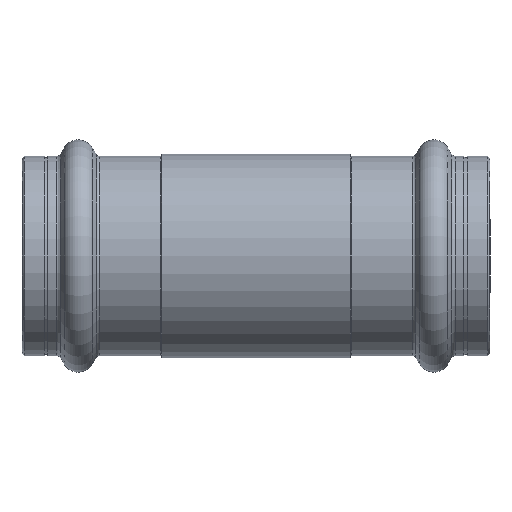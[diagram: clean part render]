
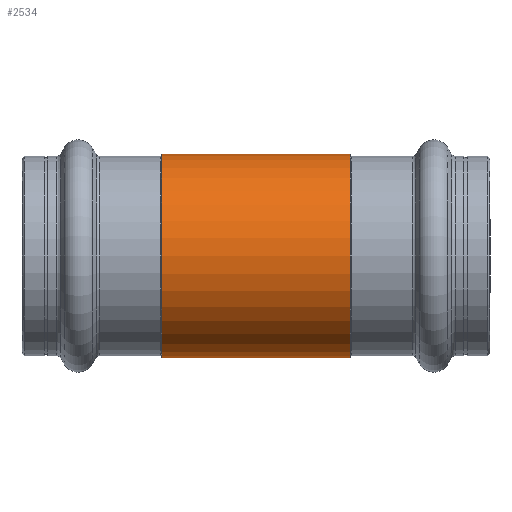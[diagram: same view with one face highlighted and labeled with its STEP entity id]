
A CAD part, front view. The second image highlights one B-rep face of the part: STEP entity #2534.
In plain terms, the highlighted cylindrical face has radius 23.5 mm (diameter 47 mm), a partial arc.
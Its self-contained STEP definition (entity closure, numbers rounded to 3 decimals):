
#301 = CARTESIAN_POINT ( 'NONE',  ( -51.265, 0., 0. ) ) ;
#381 = LINE ( 'NONE', #1226, #2763 ) ;
#392 = EDGE_LOOP ( 'NONE', ( #3155, #725, #4005, #3053 ) ) ;
#451 = DIRECTION ( 'NONE',  ( -1., 0., 0. ) ) ;
#725 = ORIENTED_EDGE ( 'NONE', *, *, #4508, .F. ) ;
#909 = DIRECTION ( 'NONE',  ( 0., 0., 1. ) ) ;
#1116 = FACE_OUTER_BOUND ( 'NONE', #392, .T. ) ;
#1226 = CARTESIAN_POINT ( 'NONE',  ( -51.265, 0., -23.5 ) ) ;
#1596 = CARTESIAN_POINT ( 'NONE',  ( -51.265, 0., 23.5 ) ) ;
#1636 = EDGE_CURVE ( 'NONE', #1990, #2400, #3427, .T. ) ;
#1713 = CARTESIAN_POINT ( 'NONE',  ( 21.711, 0., 23.5 ) ) ;
#1729 = EDGE_CURVE ( 'NONE', #1951, #2400, #1874, .T. ) ;
#1741 = VECTOR ( 'NONE', #2909, 1000. ) ;
#1863 = AXIS2_PLACEMENT_3D ( 'NONE', #4061, #4038, #3873 ) ;
#1874 = LINE ( 'NONE', #1596, #1741 ) ;
#1951 = VERTEX_POINT ( 'NONE', #1713 ) ;
#1990 = VERTEX_POINT ( 'NONE', #2948 ) ;
#2400 = VERTEX_POINT ( 'NONE', #4257 ) ;
#2534 = ADVANCED_FACE ( 'NONE', ( #1116 ), #3988, .T. ) ;
#2558 = CARTESIAN_POINT ( 'NONE',  ( 21.711, 0., -23.5 ) ) ;
#2594 = EDGE_CURVE ( 'NONE', #4278, #1990, #381, .T. ) ;
#2639 = CIRCLE ( 'NONE', #1863, 23.5 ) ;
#2763 = VECTOR ( 'NONE', #3387, 1000. ) ;
#2909 = DIRECTION ( 'NONE',  ( -1., 0., 0. ) ) ;
#2931 = AXIS2_PLACEMENT_3D ( 'NONE', #4456, #4634, #4477 ) ;
#2948 = CARTESIAN_POINT ( 'NONE',  ( -21.711, 0., -23.5 ) ) ;
#3053 = ORIENTED_EDGE ( 'NONE', *, *, #1636, .F. ) ;
#3155 = ORIENTED_EDGE ( 'NONE', *, *, #2594, .F. ) ;
#3387 = DIRECTION ( 'NONE',  ( -1., 0., 0. ) ) ;
#3427 = CIRCLE ( 'NONE', #2931, 23.5 ) ;
#3678 = AXIS2_PLACEMENT_3D ( 'NONE', #301, #451, #909 ) ;
#3873 = DIRECTION ( 'NONE',  ( 0., 0., 1. ) ) ;
#3988 = CYLINDRICAL_SURFACE ( 'NONE', #3678, 23.5 ) ;
#4005 = ORIENTED_EDGE ( 'NONE', *, *, #1729, .T. ) ;
#4038 = DIRECTION ( 'NONE',  ( 1., 0., 0. ) ) ;
#4061 = CARTESIAN_POINT ( 'NONE',  ( 21.711, 0., 0. ) ) ;
#4257 = CARTESIAN_POINT ( 'NONE',  ( -21.711, 0., 23.5 ) ) ;
#4278 = VERTEX_POINT ( 'NONE', #2558 ) ;
#4456 = CARTESIAN_POINT ( 'NONE',  ( -21.711, 0., 0. ) ) ;
#4477 = DIRECTION ( 'NONE',  ( 0., 0., 1. ) ) ;
#4508 = EDGE_CURVE ( 'NONE', #1951, #4278, #2639, .T. ) ;
#4634 = DIRECTION ( 'NONE',  ( -1., 0., 0. ) ) ;
